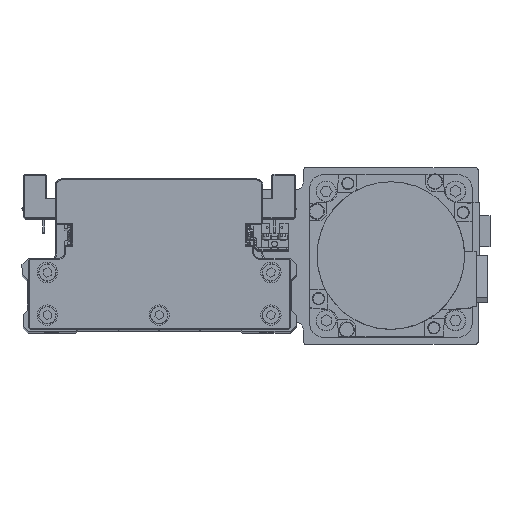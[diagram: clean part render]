
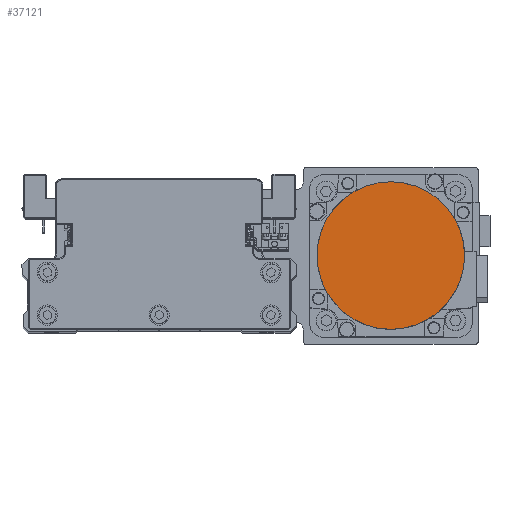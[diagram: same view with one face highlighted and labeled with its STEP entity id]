
A CAD part, top view. The second image highlights one B-rep face of the part: STEP entity #37121.
In plain terms, the highlighted planar face has unit normal (0, 0, 1) as drawn and (0, 0, -1) by its records, which use the part's own axes.
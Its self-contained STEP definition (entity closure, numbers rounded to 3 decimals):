
#1745 = AXIS2_PLACEMENT_3D ( 'NONE', #14287, #26448, #38586 ) ;
#2224 = PLANE ( 'NONE',  #24118 ) ;
#8712 = ORIENTED_EDGE ( 'NONE', *, *, #32315, .F. ) ;
#10062 = VERTEX_POINT ( 'NONE', #28726 ) ;
#10807 = DIRECTION ( 'NONE',  ( 0., 1., 0. ) ) ;
#14287 = CARTESIAN_POINT ( 'NONE',  ( 0., 0., -122.2 ) ) ;
#14382 = CARTESIAN_POINT ( 'NONE',  ( 0., 0., -122.2 ) ) ;
#18725 = AXIS2_PLACEMENT_3D ( 'NONE', #25974, #38117, #10807 ) ;
#18948 = CIRCLE ( 'NONE', #1745, 36.3 ) ;
#19570 = ORIENTED_EDGE ( 'NONE', *, *, #29235, .F. ) ;
#24118 = AXIS2_PLACEMENT_3D ( 'NONE', #14382, #26556, #38700 ) ;
#25974 = CARTESIAN_POINT ( 'NONE',  ( 0., 0., -122.2 ) ) ;
#26025 = CARTESIAN_POINT ( 'NONE',  ( 0., 36.3, -122.2 ) ) ;
#26448 = DIRECTION ( 'NONE',  ( 0., 0., 1. ) ) ;
#26556 = DIRECTION ( 'NONE',  ( 0., 0., 1. ) ) ;
#27988 = EDGE_LOOP ( 'NONE', ( #19570, #8712 ) ) ;
#28726 = CARTESIAN_POINT ( 'NONE',  ( 0., -36.3, -122.2 ) ) ;
#29235 = EDGE_CURVE ( 'NONE', #36559, #10062, #35879, .T. ) ;
#29527 = FACE_OUTER_BOUND ( 'NONE', #27988, .T. ) ;
#32315 = EDGE_CURVE ( 'NONE', #10062, #36559, #18948, .T. ) ;
#35879 = CIRCLE ( 'NONE', #18725, 36.3 ) ;
#36559 = VERTEX_POINT ( 'NONE', #26025 ) ;
#37121 = ADVANCED_FACE ( 'NONE', ( #29527 ), #2224, .F. ) ;
#38117 = DIRECTION ( 'NONE',  ( 0., 0., 1. ) ) ;
#38586 = DIRECTION ( 'NONE',  ( 0., -1., 0. ) ) ;
#38700 = DIRECTION ( 'NONE',  ( 1., 0., 0. ) ) ;
